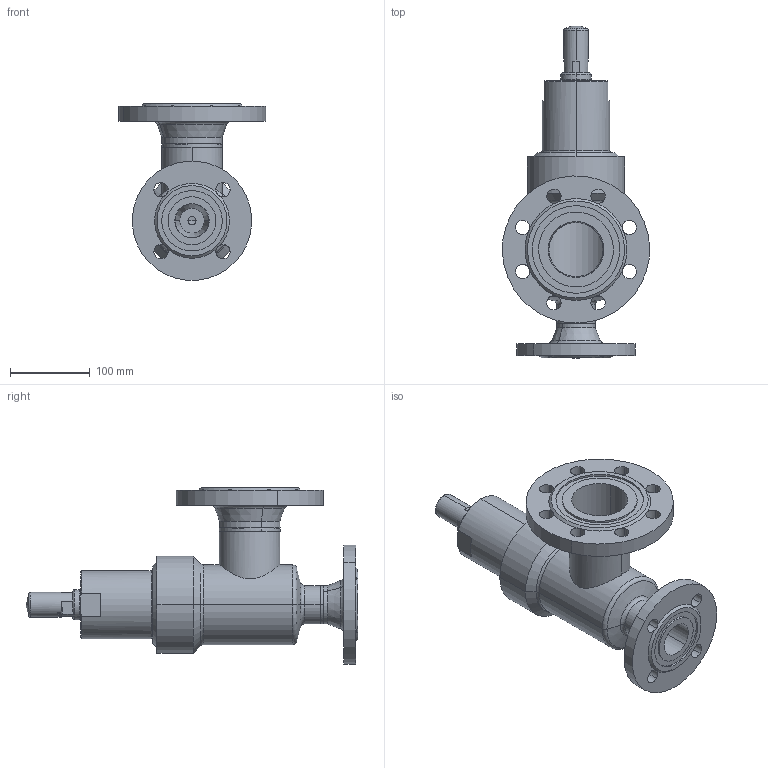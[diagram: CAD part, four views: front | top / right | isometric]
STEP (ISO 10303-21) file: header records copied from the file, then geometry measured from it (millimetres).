
FILE_DESCRIPTION (( 'STEP AP214' ), '1' );
FILE_NAME ('SVU 45820D14-DN40(65)_DIN.STEP', '2010-06-07T11:17:16', ( 'Eckhard Grams' ), ( 'AWP Kälte Klima Armaturen GmbH' ), 'SwSTEP 2.0', 'SolidWorks 2002296', '' );
FILE_SCHEMA (( 'AUTOMOTIVE_DESIGN' ));
Length unit declared in the file: millimetre
Products named in the file (11): SVU 45820D14-DN40(65)_DIN; Kappe SVA-SVU-ORV_DN10-40 (M27x1,5)_Standard; Haube 45700E14-5260003_DN40; Flachdichtg-Alu-DN40; Gehkpl 45720E14-5030001; Geh 45700E14-5034004_DN40; Rohrstutzen-A 45700E13-5036004_DN40(65)_Standard; Flansch-DIN2635-Nut_PS40_DIN-Flansch-DN065_PS40-Nut; Flansch-DIN2635-Nut_PS40_DIN-Flansch-DN040_PS40-Nut; bead Geh,kpl 45720E14-2_Standard; bead Geh,kpl 45720E14-1_Standard
Assembly tree (10 placements, depth 3):
  SVU 45820D14-DN40(65)_DIN
    Flachdichtg-Alu-DN40
    Haube 45700E14-5260003_DN40
    Kappe SVA-SVU-ORV_DN10-40 (M27x1,5)_Standard
    Gehkpl 45720E14-5030001
      Flansch-DIN2635-Nut_PS40_DIN-Flansch-DN065_PS40-Nut
      Rohrstutzen-A 45700E13-5036004_DN40(65)_Standard
      Geh 45700E14-5034004_DN40
      bead Geh,kpl 45720E14-1_Standard
      Flansch-DIN2635-Nut_PS40_DIN-Flansch-DN040_PS40-Nut
      bead Geh,kpl 45720E14-2_Standard
Bounding box: 184.82 x 417 x 221.71 mm (x, y, z)
Volume: 1759887 mm3; surface area: 391159 mm2
Topology: 9 solids, 9 shells, 270 faces, 664 edges, 417 vertices
Faces by surface type: cylinder 131, plane 50, cone 47, torus 28, bspline 10, sphere 4
Entity records: 14760 total; most frequent: CARTESIAN_POINT 7574, DIRECTION 1416, ORIENTED_EDGE 1328, EDGE_CURVE 664, AXIS2_PLACEMENT_3D 602, VERTEX_POINT 417, CIRCLE 328, EDGE_LOOP 319
